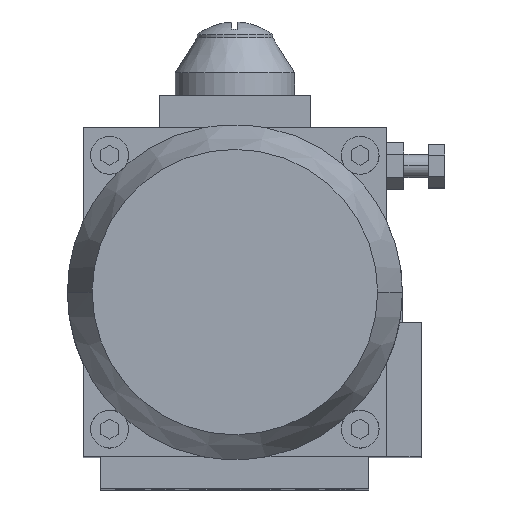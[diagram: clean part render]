
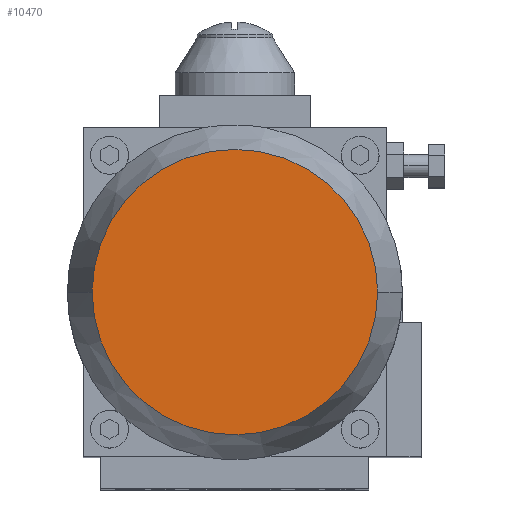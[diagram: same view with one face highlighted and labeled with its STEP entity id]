
A CAD part, top view. The second image highlights one B-rep face of the part: STEP entity #10470.
In plain terms, the highlighted planar face has unit normal (0, 0, 1).
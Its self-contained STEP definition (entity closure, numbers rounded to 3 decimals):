
#9427=CARTESIAN_POINT('',(0.,0.,134.));
#9428=DIRECTION('',(0.,0.,-1.));
#9429=DIRECTION('',(-1.,0.,0.));
#9430=AXIS2_PLACEMENT_3D('',#9427,#9428,#9429);
#9432=CARTESIAN_POINT('',(0.,0.,134.));
#9433=DIRECTION('',(0.,0.,-1.));
#9434=DIRECTION('',(1.,0.,0.));
#9435=AXIS2_PLACEMENT_3D('',#9432,#9433,#9434);
#9739=CARTESIAN_POINT('',(-49.,0.,134.));
#9740=CARTESIAN_POINT('',(49.,0.,134.));
#9741=VERTEX_POINT('',#9739);
#9742=VERTEX_POINT('',#9740);
#10461=CARTESIAN_POINT('',(0.,0.,134.));
#10462=DIRECTION('',(0.,0.,1.));
#10463=DIRECTION('',(1.,0.,0.));
#10464=AXIS2_PLACEMENT_3D('',#10461,#10462,#10463);
#10465=PLANE('',#10464);
#10466=ORIENTED_EDGE('',*,*,#10158,.T.);
#10467=ORIENTED_EDGE('',*,*,#10448,.T.);
#10468=EDGE_LOOP('',(#10466,#10467));
#10469=FACE_OUTER_BOUND('',#10468,.F.);
#10470=ADVANCED_FACE('',(#10469),#10465,.T.);
#9431=CIRCLE('',#9430,49.);
#9436=CIRCLE('',#9435,49.);
#10158=EDGE_CURVE('',#9741,#9742,#9431,.T.);
#10448=EDGE_CURVE('',#9742,#9741,#9436,.T.);
